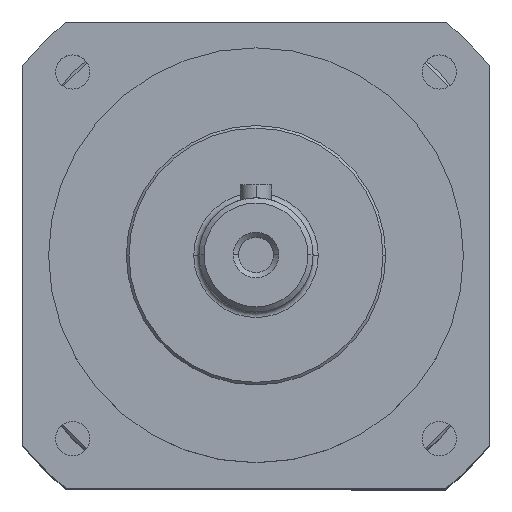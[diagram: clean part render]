
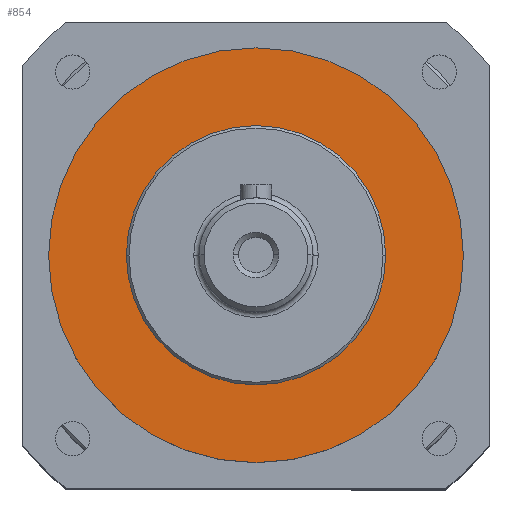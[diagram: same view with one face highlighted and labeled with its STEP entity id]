
A CAD part, top view. The second image highlights one B-rep face of the part: STEP entity #854.
In plain terms, the highlighted planar face has unit normal (0, 0, 1).
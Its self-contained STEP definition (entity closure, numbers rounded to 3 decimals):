
#73 = CARTESIAN_POINT ( 'NONE',  ( 0., 0., 18. ) ) ;
#82 = CARTESIAN_POINT ( 'NONE',  ( 40., 0., 18. ) ) ;
#95 = DIRECTION ( 'NONE',  ( 0., 0., 1. ) ) ;
#360 = PLANE ( 'NONE',  #4661 ) ;
#630 = AXIS2_PLACEMENT_3D ( 'NONE', #73, #95, #2624 ) ;
#713 = DIRECTION ( 'NONE',  ( 1., 0., 0. ) ) ;
#719 = AXIS2_PLACEMENT_3D ( 'NONE', #1426, #4456, #2294 ) ;
#794 = ORIENTED_EDGE ( 'NONE', *, *, #1194, .F. ) ;
#822 = EDGE_LOOP ( 'NONE', ( #2646, #1896 ) ) ;
#854 = ADVANCED_FACE ( 'NONE', ( #2862, #5027 ), #360, .T. ) ;
#1194 = EDGE_CURVE ( 'NONE', #1374, #4020, #2401, .T. ) ;
#1261 = CARTESIAN_POINT ( 'NONE',  ( 0., 0., 18. ) ) ;
#1374 = VERTEX_POINT ( 'NONE', #4703 ) ;
#1426 = CARTESIAN_POINT ( 'NONE',  ( 0., 0., 18. ) ) ;
#1660 = AXIS2_PLACEMENT_3D ( 'NONE', #2785, #4102, #713 ) ;
#1690 = DIRECTION ( 'NONE',  ( 1., 0., 0. ) ) ;
#1896 = ORIENTED_EDGE ( 'NONE', *, *, #2882, .T. ) ;
#1992 = CARTESIAN_POINT ( 'NONE',  ( 0., 0., 18. ) ) ;
#2047 = EDGE_CURVE ( 'NONE', #4380, #3158, #3761, .T. ) ;
#2293 = ORIENTED_EDGE ( 'NONE', *, *, #4734, .F. ) ;
#2294 = DIRECTION ( 'NONE',  ( 1., 0., 0. ) ) ;
#2356 = EDGE_LOOP ( 'NONE', ( #2293, #794 ) ) ;
#2401 = CIRCLE ( 'NONE', #1660, 25. ) ;
#2624 = DIRECTION ( 'NONE',  ( 1., 0., 0. ) ) ;
#2646 = ORIENTED_EDGE ( 'NONE', *, *, #2047, .T. ) ;
#2785 = CARTESIAN_POINT ( 'NONE',  ( 0., 0., 18. ) ) ;
#2862 = FACE_OUTER_BOUND ( 'NONE', #822, .T. ) ;
#2882 = EDGE_CURVE ( 'NONE', #3158, #4380, #4001, .T. ) ;
#2991 = DIRECTION ( 'NONE',  ( 0., 0., 1. ) ) ;
#3158 = VERTEX_POINT ( 'NONE', #82 ) ;
#3761 = CIRCLE ( 'NONE', #719, 40. ) ;
#3984 = CARTESIAN_POINT ( 'NONE',  ( -40., 0., 18. ) ) ;
#4001 = CIRCLE ( 'NONE', #5405, 40. ) ;
#4020 = VERTEX_POINT ( 'NONE', #4664 ) ;
#4102 = DIRECTION ( 'NONE',  ( 0., 0., 1. ) ) ;
#4380 = VERTEX_POINT ( 'NONE', #3984 ) ;
#4456 = DIRECTION ( 'NONE',  ( 0., 0., 1. ) ) ;
#4640 = DIRECTION ( 'NONE',  ( 1., 0., 0. ) ) ;
#4661 = AXIS2_PLACEMENT_3D ( 'NONE', #1261, #2991, #1690 ) ;
#4664 = CARTESIAN_POINT ( 'NONE',  ( -25., 0., 18. ) ) ;
#4703 = CARTESIAN_POINT ( 'NONE',  ( 25., 0., 18. ) ) ;
#4734 = EDGE_CURVE ( 'NONE', #4020, #1374, #5410, .T. ) ;
#5027 = FACE_BOUND ( 'NONE', #2356, .T. ) ;
#5034 = DIRECTION ( 'NONE',  ( 0., 0., 1. ) ) ;
#5405 = AXIS2_PLACEMENT_3D ( 'NONE', #1992, #5034, #4640 ) ;
#5410 = CIRCLE ( 'NONE', #630, 25. ) ;
